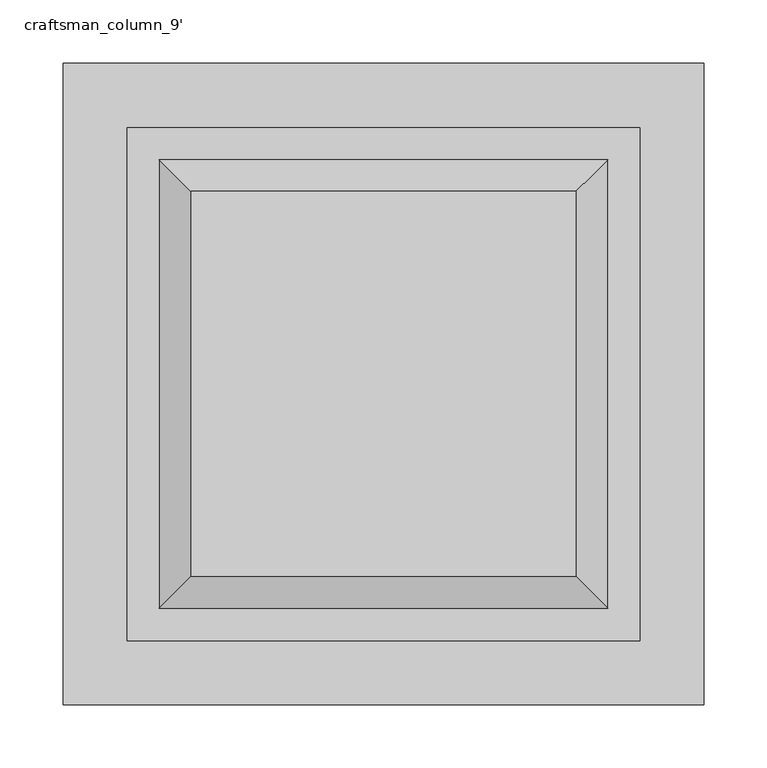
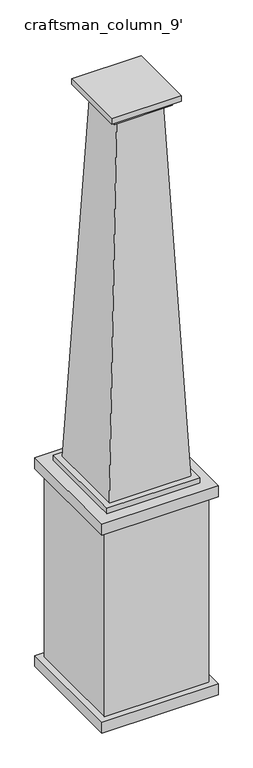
"""IFC4 building model written with IfcOpenShell, lengths in millimetres: column geometry, craftsman_column_9' : craftsman column download."""

from ifc_helpers import new_model, si_unit, frame, origin, place, context, project, spatial, polyline, outline, extrude, faceted_brep, source, transform, mapped, element, save


def craftsman_column_9_d8d15924(model_context):
    return source(origin(), model_context, "Body", "SolidModel", [
        extrude(outline(polyline([(254.0, 254.0), (254.0, -254.0), (-254.0, -254.0), (-254.0, 254.0), (254.0, 254.0)])), frame((0.0, 0.0, 1066.8), z_axis=(0.0, 0.0, 1.0), x_axis=(1.0, 0.0, 0.0)), (0.0, 0.0, 1.0), 50.8),
        extrude(outline(polyline([(254.0, 254.0), (254.0, -254.0), (-254.0, -254.0), (-254.0, 254.0), (254.0, 254.0)])), frame((0.0, 0.0, 1981.2), z_axis=(0.0, 0.0, 1.0), x_axis=(1.0, 0.0, 0.0)), (0.0, 0.0, 1.0), 50.8),
        extrude(outline(polyline([(-152.4, 152.4), (152.4, 152.4), (152.4, -152.4), (-152.4, -152.4), (-152.4, 152.4)])), frame((0.0, 0.0, 3784.6), z_axis=(0.0, 0.0, 1.0), x_axis=(1.0, 0.0, 0.0)), (0.0, 0.0, 1.0), 25.4),
        extrude(outline(polyline([(203.2, 203.2), (203.2, -203.2), (-203.2, -203.2), (-203.2, 203.2), (203.2, 203.2)])), frame((0.0, 0.0, 2032.0), z_axis=(0.0, 0.0, 1.0), x_axis=(1.0, 0.0, 0.0)), (0.0, 0.0, 1.0), 25.4),
        extrude(outline(polyline([(127.0, 127.0), (127.0, -127.0), (-127.0, -127.0), (-127.0, 127.0), (127.0, 127.0)])), frame((0.0, 0.0, 3759.2), z_axis=(0.0, 0.0, 1.0), x_axis=(1.0, 0.0, 0.0)), (0.0, 0.0, 1.0), 25.4),
        extrude(outline(polyline([(228.6, -228.6), (-228.6, -228.6), (-228.6, 228.6), (228.6, 228.6), (228.6, -228.6)])), frame((0.0, 0.0, 1117.6), z_axis=(0.0, 0.0, 1.0), x_axis=(1.0, 0.0, 0.0)), (0.0, 0.0, 1.0), 863.6),
        faceted_brep([(101.6, 101.6, 3759.2), (-101.6, 101.6, 3759.2), (-101.6, -101.6, 3759.2), (101.6, -101.6, 3759.2), (177.8, 177.8, 2057.4), (177.8, -177.8, 2057.4), (-177.8, -177.8, 2057.4), (-177.8, 177.8, 2057.4)], [[[0, 1, 2, 3]], [[4, 5, 6, 7]], [[4, 7, 1, 0]], [[7, 6, 2, 1]], [[6, 5, 3, 2]], [[5, 4, 0, 3]]]),
    ])


if __name__ == "__main__":
    model = new_model("IFC4")
    model_context = context("Model", 3, world=origin())
    ifc_project = project(units=[si_unit("LENGTHUNIT", "METRE", prefix="MILLI")], contexts=[model_context])
    site = spatial("IfcSite", under=ifc_project)
    building = spatial("IfcBuilding", under=site)
    placement = place(None, origin())
    craftsman_column_9_shape = craftsman_column_9_d8d15924(model_context)
    element("IfcColumn", 1, ObjectType="craftsman_column_9' : craftsman column download", at=placement, inside=building, context=model_context, shape_type="MappedRepresentation", body=[
        mapped(craftsman_column_9_shape, transform((0.0, 0.0, 0.0), x_axis=(1.0, 0.0, 0.0), y_axis=(0.0, 1.0, 0.0), z_axis=(0.0, 0.0, 1.0))),
    ])
    save(model, "model.ifc")
